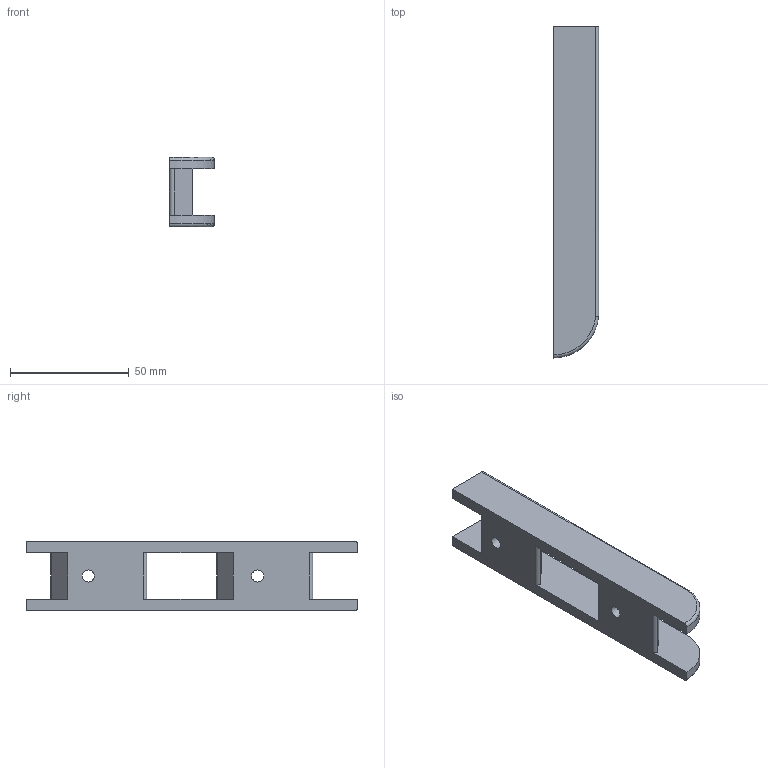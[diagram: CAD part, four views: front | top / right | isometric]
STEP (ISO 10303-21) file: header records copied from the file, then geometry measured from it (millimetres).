
FILE_DESCRIPTION(/* description */ ('STEP AP242','CAx-IF Rec.Pracs.---Representation and Presentation of Product Manufacturing Information (PMI)---4.0---2014-10-13','CAx-IF Rec.Pracs.---3D Tessellated Geometry---0.4---2014-09-14','2;1'),/* implementation_level */ '2;1');
FILE_NAME(/* name */ '677e1314248f357686528fc9',/* time_stamp */ '2025-01-08T05:54:28Z',/* author */ (''),/* organization */ (''),/* preprocessor_version */ 'ST-DEVELOPER v20',/* originating_system */ 'ONSHAPE BY PTC INC, 1.191',/* authorisation */ ' ');
FILE_SCHEMA (('AP242_MANAGED_MODEL_BASED_3D_ENGINEERING_MIM_LF { 1 0 10303 442 1 1 4 }'));
Length unit declared in the file: metre
Products named in the file (1): Wall Bracket-5.5
Bounding box: 19.05 x 139.7 x 29.21 mm (x, y, z)
Volume: 36436.3 mm3; surface area: 15651.8 mm2
Topology: 1 solids, 1 shells, 33 faces, 88 edges, 58 vertices
Faces by surface type: plane 17, cylinder 12, torus 2, cone 2
Full cylindrical faces by diameter (mm): 5.08 x2, 12.7 x2
Entity records: 1024 total; most frequent: CARTESIAN_POINT 178, DIRECTION 174, ORIENTED_EDGE 160, EDGE_CURVE 80, AXIS2_PLACEMENT_3D 62, VERTEX_POINT 56, LINE 50, VECTOR 50
